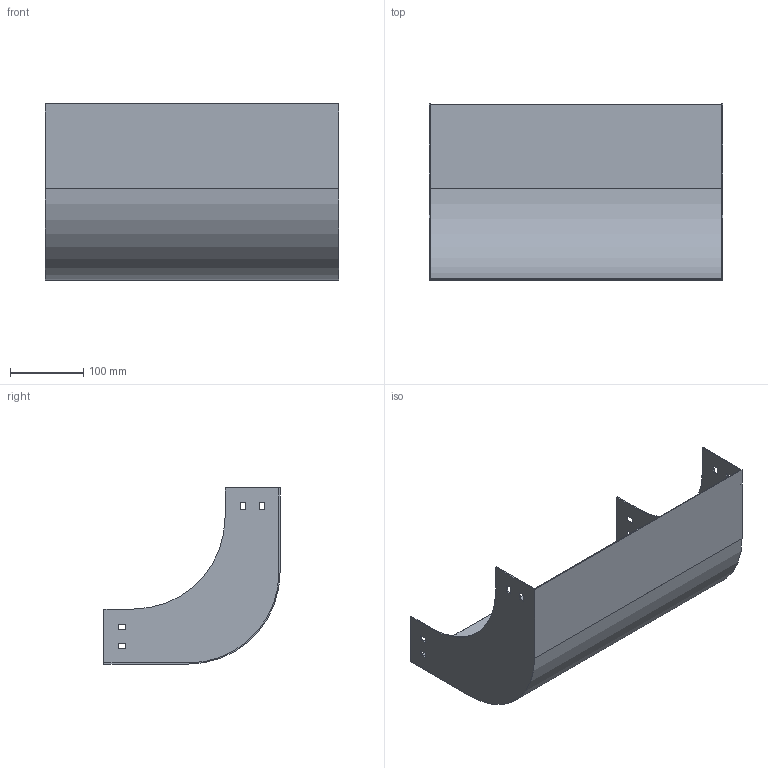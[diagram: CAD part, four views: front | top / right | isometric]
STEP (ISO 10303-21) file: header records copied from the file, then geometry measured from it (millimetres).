
FILE_DESCRIPTION (( 'STEP AP214' ), '1' );
FILE_NAME ('S9_407.step', '2025-07-16T09:28:27', ( '' ), ( '' ), 'SwSTEP 2.0', 'SolidWorks 2023', '' );
FILE_SCHEMA (( 'AUTOMOTIVE_DESIGN' ));
Length unit declared in the file: millimetre
Products named in the file (1): S9_407
Bounding box: 400 x 240 x 240 mm (x, y, z)
Volume: 343474.6 mm3; surface area: 460847.7 mm2
Topology: 1 solids, 1 shells, 50 faces, 144 edges, 96 vertices
Faces by surface type: plane 46, cylinder 4
Entity records: 1671 total; most frequent: CARTESIAN_POINT 291, ORIENTED_EDGE 288, DIRECTION 254, EDGE_CURVE 144, VECTOR 136, LINE 136, VERTEX_POINT 96, EDGE_LOOP 66
